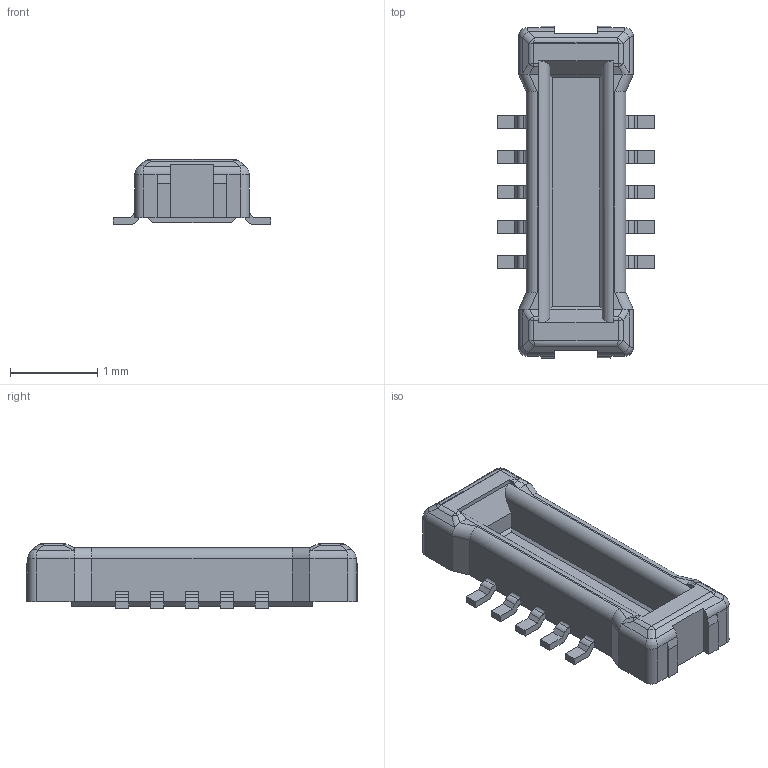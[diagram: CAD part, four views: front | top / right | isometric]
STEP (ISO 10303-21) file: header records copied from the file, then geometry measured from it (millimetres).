
FILE_DESCRIPTION (( 'STEP AP214' ), '1' );
FILE_NAME ('105804010020.STEP', '2023-02-22T01:35:27', ( '' ), ( '' ), 'SwSTEP 2.0', 'SolidWorks 2021', '' );
FILE_SCHEMA (( 'AUTOMOTIVE_DESIGN' ));
Length unit declared in the file: millimetre
Products named in the file (1): 105804010020
Bounding box: 1.8 x 3.8 x 0.74 mm (x, y, z)
Volume: 2.1 mm3; surface area: 19.8 mm2
Topology: 1 solids, 1 shells, 230 faces, 587 edges, 370 vertices
Faces by surface type: plane 139, cylinder 75, bspline 12, sphere 4
Entity records: 7039 total; most frequent: CARTESIAN_POINT 1584, ORIENTED_EDGE 1174, DIRECTION 1042, EDGE_CURVE 587, VECTOR 418, LINE 418, VERTEX_POINT 370, AXIS2_PLACEMENT_3D 312
